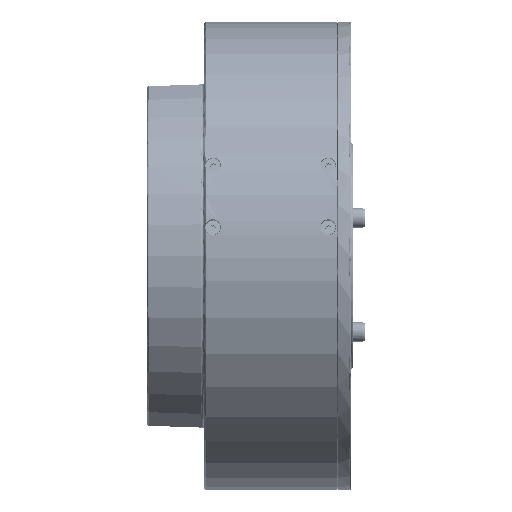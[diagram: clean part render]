
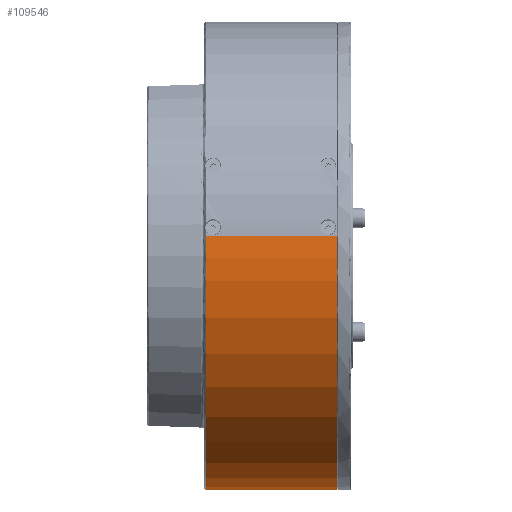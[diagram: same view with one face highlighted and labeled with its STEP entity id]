
A CAD part, left-side view. The second image highlights one B-rep face of the part: STEP entity #109546.
In plain terms, the highlighted cylindrical face has radius 60 mm (diameter 120 mm), a partial arc.
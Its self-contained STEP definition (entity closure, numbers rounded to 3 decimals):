
#2937 = CARTESIAN_POINT ( 'NONE',  ( 0., -28.235, -60. ) ) ;
#6210 = EDGE_LOOP ( 'NONE', ( #240033, #242504, #271705, #243088 ) ) ;
#8479 = CARTESIAN_POINT ( 'NONE',  ( -20.354, -28.235, -56.594 ) ) ;
#9839 = CARTESIAN_POINT ( 'NONE',  ( -31.556, -28.235, -51.2 ) ) ;
#11207 = CARTESIAN_POINT ( 'NONE',  ( -59.779, -28.235, 5.147 ) ) ;
#27864 = CARTESIAN_POINT ( 'NONE',  ( -4.142, -28.235, -60. ) ) ;
#30593 = CARTESIAN_POINT ( 'NONE',  ( -59.779, -28.235, 5.147 ) ) ;
#33718 = EDGE_CURVE ( 'NONE', #240479, #199307, #168214, .T. ) ;
#34660 = FACE_OUTER_BOUND ( 'NONE', #6210, .T. ) ;
#37391 = DIRECTION ( 'NONE',  ( 0., 0., -1. ) ) ;
#41208 = CARTESIAN_POINT ( 'NONE',  ( -59.779, -61.735, 5.147 ) ) ;
#47170 = B_SPLINE_CURVE_WITH_KNOTS ( 'NONE', 3,
 ( #113033, #240356, #89536, #68796, #67433, #93651, #218209, #258366, #241727, #50767, #173957, #135198, #153219, #48053, #178071, #215480, #52138, #262498 ),
 .UNSPECIFIED., .F., .F.,
 ( 4, 2, 2, 2, 2, 2, 2, 2, 4 ),
 ( 0., 0.125, 0.25, 0.375, 0.5, 0.625, 0.75, 0.875, 1. ),
 .UNSPECIFIED. ) ;
#48053 = CARTESIAN_POINT ( 'NONE',  ( -58.131, -61.735, -15.424 ) ) ;
#50767 = CARTESIAN_POINT ( 'NONE',  ( -47.009, -61.735, -37.514 ) ) ;
#51371 = CARTESIAN_POINT ( 'NONE',  ( -59.779, -39.402, 5.147 ) ) ;
#52138 = CARTESIAN_POINT ( 'NONE',  ( -60.134, -61.735, 1.021 ) ) ;
#52857 = CARTESIAN_POINT ( 'NONE',  ( 0., -61.735, -60. ) ) ;
#54059 = DIRECTION ( 'NONE',  ( 0., -1., 0. ) ) ;
#67433 = CARTESIAN_POINT ( 'NONE',  ( -20.354, -61.735, -56.594 ) ) ;
#68796 = CARTESIAN_POINT ( 'NONE',  ( -16.39, -61.735, -57.866 ) ) ;
#70083 = VECTOR ( 'NONE', #126708, 1000. ) ;
#74855 = CARTESIAN_POINT ( 'NONE',  ( -8.283, -28.235, -59.57 ) ) ;
#76216 = CARTESIAN_POINT ( 'NONE',  ( -38.291, -28.235, -46.378 ) ) ;
#87033 = VERTEX_POINT ( 'NONE', #41208 ) ;
#89536 = CARTESIAN_POINT ( 'NONE',  ( -8.283, -61.735, -59.57 ) ) ;
#92860 = CARTESIAN_POINT ( 'NONE',  ( -59.059, -28.235, -11.365 ) ) ;
#93651 = CARTESIAN_POINT ( 'NONE',  ( -27.937, -61.735, -53.26 ) ) ;
#94255 = CARTESIAN_POINT ( 'NONE',  ( -49.492, -28.235, -34.172 ) ) ;
#103969 = CARTESIAN_POINT ( 'NONE',  ( -59.779, -28.235, 5.147 ) ) ;
#107338 = VERTEX_POINT ( 'NONE', #103969 ) ;
#109546 = ADVANCED_FACE ( 'NONE', ( #34660 ), #225582, .T. ) ;
#113033 = CARTESIAN_POINT ( 'NONE',  ( 0., -61.735, -60. ) ) ;
#115003 = CARTESIAN_POINT ( 'NONE',  ( -16.39, -28.235, -57.866 ) ) ;
#116375 = CARTESIAN_POINT ( 'NONE',  ( -59.779, -61.735, 5.147 ) ) ;
#126708 = DIRECTION ( 'NONE',  ( 0., -1., 0. ) ) ;
#130840 = EDGE_CURVE ( 'NONE', #87033, #107338, #214609, .T. ) ;
#133051 = CARTESIAN_POINT ( 'NONE',  ( -27.937, -28.235, -53.26 ) ) ;
#135198 = CARTESIAN_POINT ( 'NONE',  ( -53.718, -61.735, -27.047 ) ) ;
#135809 = CARTESIAN_POINT ( 'NONE',  ( -41.409, -28.235, -43.617 ) ) ;
#153219 = CARTESIAN_POINT ( 'NONE',  ( -55.461, -61.735, -23.265 ) ) ;
#156216 = B_SPLINE_CURVE_WITH_KNOTS ( 'NONE', 3,
 ( #263088, #27864, #74855, #115003, #8479, #133051, #9839, #76216, #135809, #177275, #94255, #178667, #260340, #198034, #92860, #180051, #220197, #30593 ),
 .UNSPECIFIED., .F., .F.,
 ( 4, 2, 2, 2, 2, 2, 2, 2, 4 ),
 ( 0., 0.125, 0.25, 0.375, 0.5, 0.625, 0.75, 0.875, 1. ),
 .UNSPECIFIED. ) ;
#168214 = LINE ( 'NONE', #252621, #70083 ) ;
#173957 = CARTESIAN_POINT ( 'NONE',  ( -49.492, -61.735, -34.172 ) ) ;
#177275 = CARTESIAN_POINT ( 'NONE',  ( -47.009, -28.235, -37.514 ) ) ;
#178071 = CARTESIAN_POINT ( 'NONE',  ( -59.059, -61.735, -11.365 ) ) ;
#178667 = CARTESIAN_POINT ( 'NONE',  ( -53.718, -28.235, -27.047 ) ) ;
#180051 = CARTESIAN_POINT ( 'NONE',  ( -60.061, -28.235, -3.142 ) ) ;
#182144 = EDGE_CURVE ( 'NONE', #199307, #87033, #47170, .T. ) ;
#191148 = AXIS2_PLACEMENT_3D ( 'NONE', #245002, #54059, #37391 ) ;
#198034 = CARTESIAN_POINT ( 'NONE',  ( -58.131, -28.235, -15.424 ) ) ;
#199307 = VERTEX_POINT ( 'NONE', #52857 ) ;
#200777 = CARTESIAN_POINT ( 'NONE',  ( -59.779, -50.569, 5.147 ) ) ;
#214609 = B_SPLINE_CURVE_WITH_KNOTS ( 'NONE', 3,
 ( #116375, #200777, #51371, #11207 ),
 .UNSPECIFIED., .F., .F.,
 ( 4, 4 ),
 ( 0., 1. ),
 .UNSPECIFIED. ) ;
#215480 = CARTESIAN_POINT ( 'NONE',  ( -60.061, -61.735, -3.142 ) ) ;
#218209 = CARTESIAN_POINT ( 'NONE',  ( -31.556, -61.735, -51.2 ) ) ;
#220197 = CARTESIAN_POINT ( 'NONE',  ( -60.134, -28.235, 1.021 ) ) ;
#225582 = CYLINDRICAL_SURFACE ( 'NONE', #191148, 60. ) ;
#240033 = ORIENTED_EDGE ( 'NONE', *, *, #270940, .F. ) ;
#240356 = CARTESIAN_POINT ( 'NONE',  ( -4.142, -61.735, -60. ) ) ;
#240479 = VERTEX_POINT ( 'NONE', #2937 ) ;
#241727 = CARTESIAN_POINT ( 'NONE',  ( -41.409, -61.735, -43.617 ) ) ;
#242504 = ORIENTED_EDGE ( 'NONE', *, *, #33718, .T. ) ;
#243088 = ORIENTED_EDGE ( 'NONE', *, *, #130840, .T. ) ;
#245002 = CARTESIAN_POINT ( 'NONE',  ( 0., -61.935, 0. ) ) ;
#252621 = CARTESIAN_POINT ( 'NONE',  ( 0., -61.935, -60. ) ) ;
#258366 = CARTESIAN_POINT ( 'NONE',  ( -38.291, -61.735, -46.378 ) ) ;
#260340 = CARTESIAN_POINT ( 'NONE',  ( -55.461, -28.235, -23.265 ) ) ;
#262498 = CARTESIAN_POINT ( 'NONE',  ( -59.779, -61.735, 5.147 ) ) ;
#263088 = CARTESIAN_POINT ( 'NONE',  ( 0., -28.235, -60. ) ) ;
#270940 = EDGE_CURVE ( 'NONE', #240479, #107338, #156216, .T. ) ;
#271705 = ORIENTED_EDGE ( 'NONE', *, *, #182144, .T. ) ;
